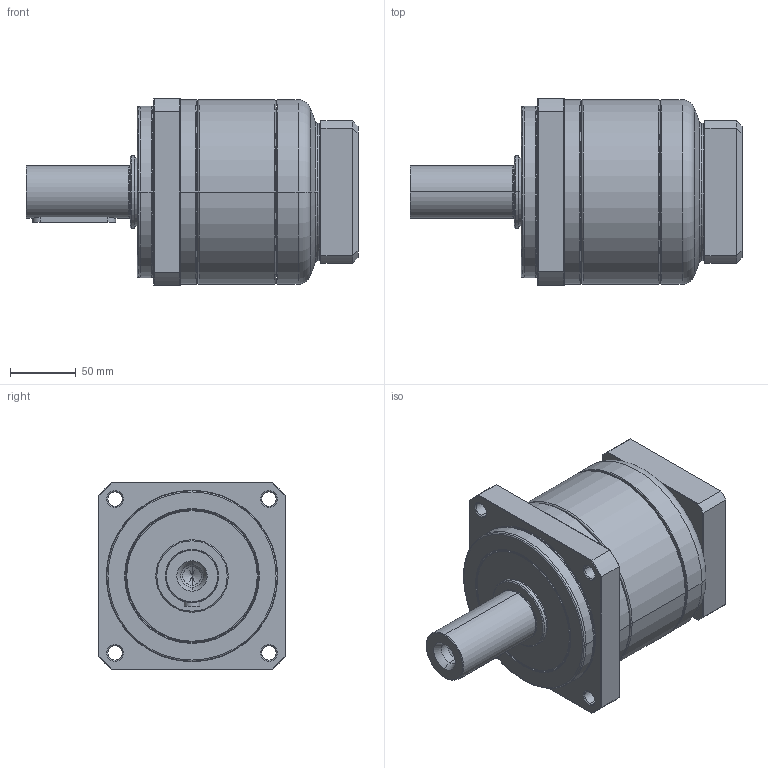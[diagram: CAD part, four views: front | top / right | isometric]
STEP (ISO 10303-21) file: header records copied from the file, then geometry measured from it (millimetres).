
FILE_DESCRIPTION((''),'2;1');
FILE_NAME('PA2-142_1ST_28-P0411600101_ASM','2016-05-06T',('d01943'),(''),'PRO/ENGINEER BY PARAMETRIC TECHNOLOGY CORPORATION, 2008410','PRO/ENGINEER BY PARAMETRIC TECHNOLOGY CORPORATION, 2008410','');
FILE_SCHEMA(('CONFIG_CONTROL_DESIGN'));
Length unit declared in the file: millimetre
Products named in the file (9): P1327510001; P0250500001; P1324500201; P0350500601; P0941502001; P0503600008; P0411600101; P1702500001; PA2-142_1ST_28-P0411600101_ASM
Assembly tree (8 placements, depth 2):
  PA2-142_1ST_28-P0411600101_ASM
    P1327510001
    P0250500001
    P1324500201
    P0350500601
    P0941502001
    P0503600008
    P0411600101
    P1702500001
Bounding box: 252 x 142 x 142 mm (x, y, z)
Volume: 2015772.6 mm3; surface area: 299527.7 mm2
Topology: 8 solids, 8 shells, 455 faces, 996 edges, 576 vertices
Faces by surface type: cone 142, cylinder 127, plane 86, torus 84, bspline 16
Entity records: 17070 total; most frequent: CARTESIAN_POINT 6826, DIRECTION 2312, ORIENTED_EDGE 1952, AXIS2_PLACEMENT_3D 985, EDGE_CURVE 976, VERTEX_POINT 576, CIRCLE 529, EDGE_LOOP 518
